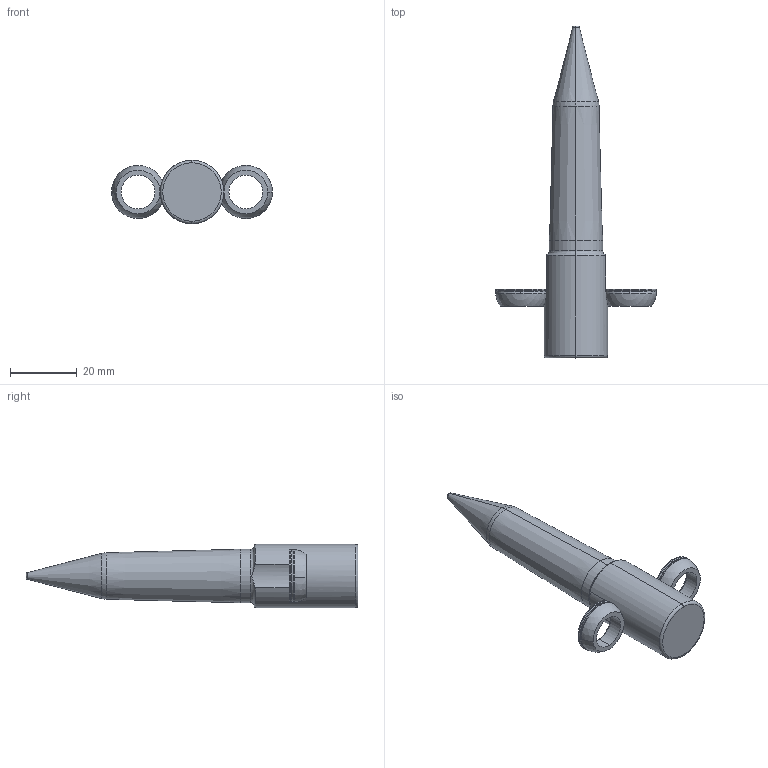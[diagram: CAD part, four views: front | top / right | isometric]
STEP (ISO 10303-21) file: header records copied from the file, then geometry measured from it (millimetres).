
FILE_DESCRIPTION (( 'STEP AP214' ), '1' );
FILE_NAME ('PA-T-16mm-3.2mm-40mm-3-A-F2.STEP', '2019-05-08T18:10:28', ( '' ), ( '' ), 'SwSTEP 2.0', 'SolidWorks 2017', '' );
FILE_SCHEMA (( 'AUTOMOTIVE_DESIGN' ));
Length unit declared in the file: inch
Products named in the file (3): SLRadiusWasher_RadiusWasher-M; SLPilot-PA-T-M_PA-T-16-3.2-40-3-A-F2; PA-T-16mm-3.2mm-40mm-3-A-F2
Assembly tree (3 placements, depth 2):
  PA-T-16mm-3.2mm-40mm-3-A-F2
    SLRadiusWasher_RadiusWasher-M  x2
    SLPilot-PA-T-M_PA-T-16-3.2-40-3-A-F2
Bounding box: 48.06 x 99.18 x 19 mm (x, y, z)
Volume: 18895.3 mm3; surface area: 6012.1 mm2
Topology: 3 solids, 3 shells, 61 faces, 136 edges, 81 vertices
Faces by surface type: torus 19, cylinder 18, cone 8, sphere 8, plane 8
Entity records: 1565 total; most frequent: CARTESIAN_POINT 344, DIRECTION 266, ORIENTED_EDGE 204, AXIS2_PLACEMENT_3D 123, EDGE_CURVE 102, CIRCLE 72, VERTEX_POINT 61, EDGE_LOOP 47
